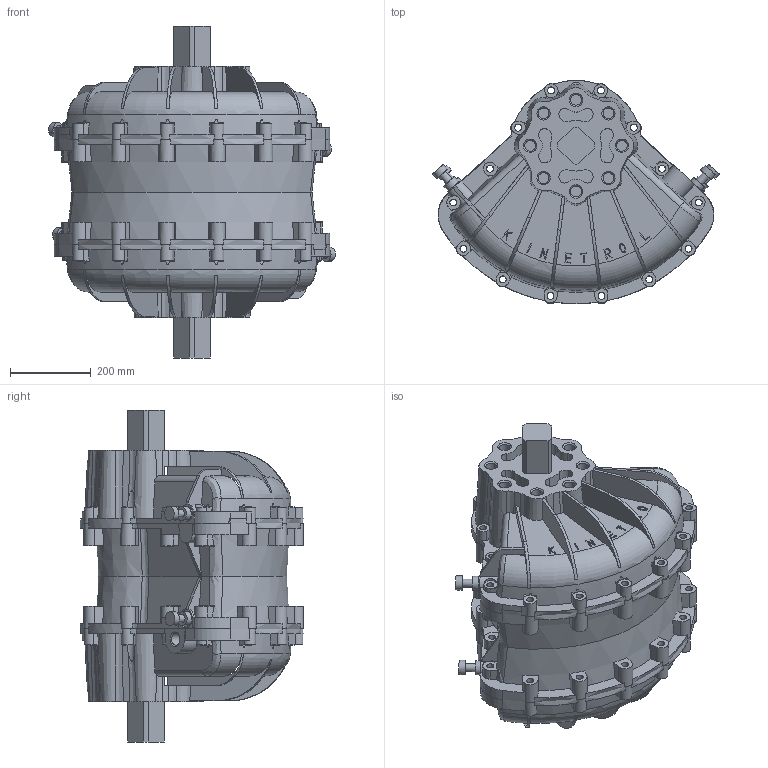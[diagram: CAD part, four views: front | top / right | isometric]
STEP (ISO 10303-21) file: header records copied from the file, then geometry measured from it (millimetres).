
FILE_DESCRIPTION( ( 'Unknown' ), '1' );
FILE_NAME( 'H:/3D Models for Customers/ACTUATOR MODELS OMO TO 300 (.pwd & .stp & .igs & .asm)/200-100.stp', 'Unknown', ( 'Unknown' ), ( 'Unknown' ), 'XStep 1.0', 'Unknown', ' ' );
FILE_SCHEMA( ( 'CONFIG_CONTROL_DESIGN' ) );
Length unit declared in the file: millimetre
Products named in the file (1): 20 case.par 2 1
Bounding box: 708.52 x 551.6 x 820.25 mm (x, y, z)
Volume: 102863574.3 mm3; surface area: 2269180.7 mm2
Topology: 1 solids, 5 shells, 1198 faces, 3284 edges, 2190 vertices
Faces by surface type: plane 743, cylinder 322, cone 93, bspline 18, torus 18, extrusion 4
Full cylindrical faces by diameter (mm): 12.03 x2, 17 x28, 17.2 x28, 20 x4, 26.5 x16, 30.291 x2, 35 x8, 36.5 x4, 46 x2
Entity records: 43282 total; most frequent: CARTESIAN_POINT 12929, DIRECTION 6358, ORIENTED_EDGE 6250, EDGE_CURVE 3125, AXIS2_PLACEMENT_3D 2364, VERTEX_POINT 2143, VECTOR 1630, LINE 1626
